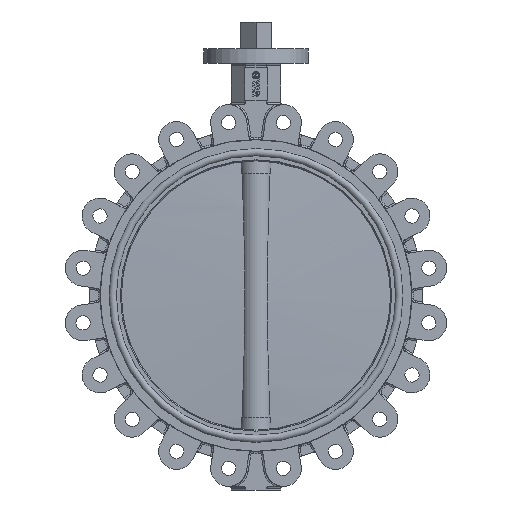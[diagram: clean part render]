
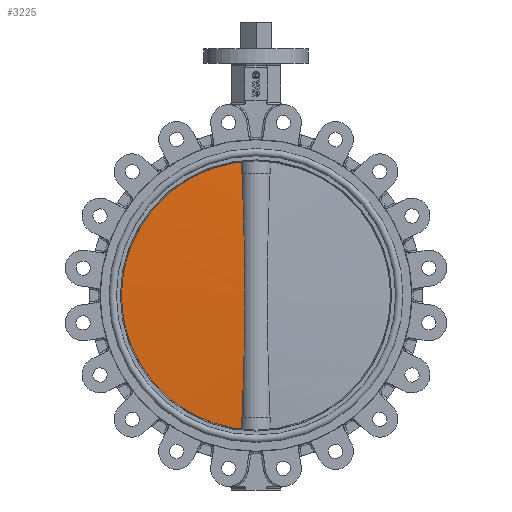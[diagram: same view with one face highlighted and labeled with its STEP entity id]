
A CAD part, left-side view. The second image highlights one B-rep face of the part: STEP entity #3225.
In plain terms, the highlighted spherical face has radius 3378.75 mm.
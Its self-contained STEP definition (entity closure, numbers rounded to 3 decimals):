
#3225=ADVANCED_FACE('',(#9368),#9370,.T.);
#9368=FACE_BOUND('',#9369,.T.);
#9369=EDGE_LOOP('',(#14294,#14295,#14296,#14297,#14298,#14299));
#9370=SPHERICAL_SURFACE('',#9371,3378.75);
#9371=AXIS2_PLACEMENT_3D('',#9372,#9373,#9374);
#9372=CARTESIAN_POINT('',(0.,-3360.75,0.));
#9373=DIRECTION('',(0.,-1.,0.));
#9374=DIRECTION('',(0.,0.,1.));
#14294=ORIENTED_EDGE('',*,*,#16489,.F.);
#14295=ORIENTED_EDGE('',*,*,#16501,.F.);
#14296=ORIENTED_EDGE('',*,*,#16502,.T.);
#14297=ORIENTED_EDGE('',*,*,#16503,.F.);
#14298=ORIENTED_EDGE('',*,*,#16472,.F.);
#14299=ORIENTED_EDGE('',*,*,#16500,.T.);
#16472=EDGE_CURVE('',#20061,#20062,#20063,.F.);
#16489=EDGE_CURVE('',#20094,#20079,#20096,.T.);
#16500=EDGE_CURVE('',#20061,#20079,#20111,.T.);
#16501=EDGE_CURVE('',#20112,#20094,#20113,.T.);
#16502=EDGE_CURVE('',#20112,#20114,#20115,.T.);
#16503=EDGE_CURVE('',#20062,#20114,#20116,.T.);
#20061=VERTEX_POINT('',#33538);
#20062=VERTEX_POINT('',#33539);
#20063=B_SPLINE_CURVE_WITH_KNOTS('',3,
(#33540,#33541,#33542,#33543,#33544,#33545,#33546),
.UNSPECIFIED.,.F.,.F.,
(4,1,1,1,4),
(0.,0.241,0.488,0.741,1.),
.UNSPECIFIED.);
#20079=VERTEX_POINT('',#33679);
#20094=VERTEX_POINT('',#33808);
#20096=B_SPLINE_CURVE_WITH_KNOTS('',3,
(#33813,#33814,#33815,#33816,#33817,#33818,#33819),
.UNSPECIFIED.,.F.,.F.,
(4,1,1,1,4),
(0.,0.241,0.488,0.741,1.),
.UNSPECIFIED.);
#20111=CIRCLE('',#33891,225.);
#20112=VERTEX_POINT('',#33895);
#20113=CIRCLE('',#33896,3372.642);
#20114=VERTEX_POINT('',#33900);
#20115=B_SPLINE_CURVE_WITH_KNOTS('',3,
(#33901,#33902,#33903,#33904,#33905,#33906,#33907,#33908,#33909,#33910,#33911,#33912,
#33913,#33914,#33915),
.UNSPECIFIED.,.F.,.F.,
(4,1,1,1,1,1,1,1,1,1,1,1,4),
(0.,0.115,0.223,0.325,0.406,0.488,
0.5,0.592,0.692,0.79,0.86,
0.931,1.),
.UNSPECIFIED.);
#20116=CIRCLE('',#33916,3372.642);
#33538=CARTESIAN_POINT('',(24.956,10.5,223.612));
#33539=CARTESIAN_POINT('',(24.366,11.804,203.063));
#33540=CARTESIAN_POINT('',(24.366,11.804,203.062));
#33541=CARTESIAN_POINT('',(24.414,11.705,204.712));
#33542=CARTESIAN_POINT('',(24.512,11.5,208.053));
#33543=CARTESIAN_POINT('',(24.659,11.183,213.127));
#33544=CARTESIAN_POINT('',(24.807,10.849,218.328));
#33545=CARTESIAN_POINT('',(24.906,10.618,221.836));
#33546=CARTESIAN_POINT('',(24.956,10.5,223.612));
#33679=CARTESIAN_POINT('',(24.956,10.5,-223.612));
#33808=CARTESIAN_POINT('',(24.366,11.804,-203.063));
#33813=CARTESIAN_POINT('',(24.366,11.804,-203.062));
#33814=CARTESIAN_POINT('',(24.414,11.705,-204.712));
#33815=CARTESIAN_POINT('',(24.512,11.5,-208.053));
#33816=CARTESIAN_POINT('',(24.659,11.183,-213.127));
#33817=CARTESIAN_POINT('',(24.807,10.849,-218.328));
#33818=CARTESIAN_POINT('',(24.906,10.618,-221.836));
#33819=CARTESIAN_POINT('',(24.956,10.5,-223.612));
#33891=AXIS2_PLACEMENT_3D('',#33892,#33893,#33894);
#33892=CARTESIAN_POINT('',(0.,10.5,0.));
#33893=DIRECTION('',(0.,1.,0.));
#33894=DIRECTION('',(0.111,0.,0.994));
#33895=CARTESIAN_POINT('',(23.059,11.814,-203.062));
#33896=AXIS2_PLACEMENT_3D('',#33897,#33898,#33899);
#33897=CARTESIAN_POINT('',(0.,-3360.75,-203.063));
#33898=DIRECTION('',(0.,0.,-1.));
#33899=DIRECTION('',(0.007,1.,0.));
#33900=CARTESIAN_POINT('',(23.059,11.814,203.063));
#33901=CARTESIAN_POINT('',(23.059,11.814,-203.062));
#33902=CARTESIAN_POINT('',(22.579,12.749,-187.581));
#33903=CARTESIAN_POINT('',(21.614,14.361,-157.463));
#33904=CARTESIAN_POINT('',(20.31,16.121,-113.54));
#33905=CARTESIAN_POINT('',(19.384,17.202,-74.039));
#33906=CARTESIAN_POINT('',(18.841,17.787,-38.106));
#33907=CARTESIAN_POINT('',(18.694,17.939,-14.335));
#33908=CARTESIAN_POINT('',(18.677,17.957,10.813));
#33909=CARTESIAN_POINT('',(18.826,17.804,38.505));
#33910=CARTESIAN_POINT('',(19.452,17.13,77.724));
#33911=CARTESIAN_POINT('',(20.343,16.07,114.101));
#33912=CARTESIAN_POINT('',(21.282,14.802,146.351));
#33913=CARTESIAN_POINT('',(22.172,13.441,174.824));
#33914=CARTESIAN_POINT('',(22.769,12.38,193.688));
#33915=CARTESIAN_POINT('',(23.059,11.814,203.062));
#33916=AXIS2_PLACEMENT_3D('',#33917,#33918,#33919);
#33917=CARTESIAN_POINT('',(0.,-3360.75,203.063));
#33918=DIRECTION('',(0.,0.,1.));
#33919=DIRECTION('',(0.007,1.,0.));
